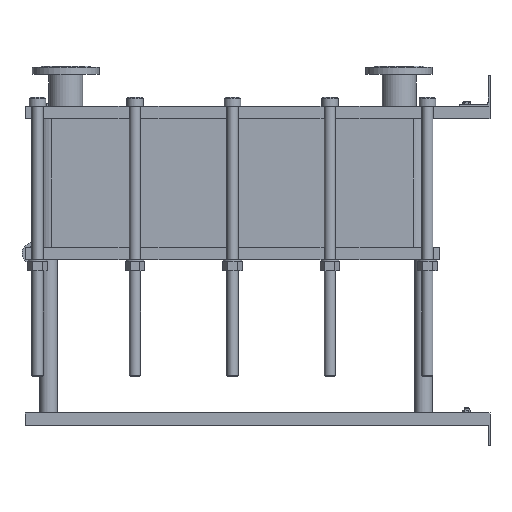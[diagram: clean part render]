
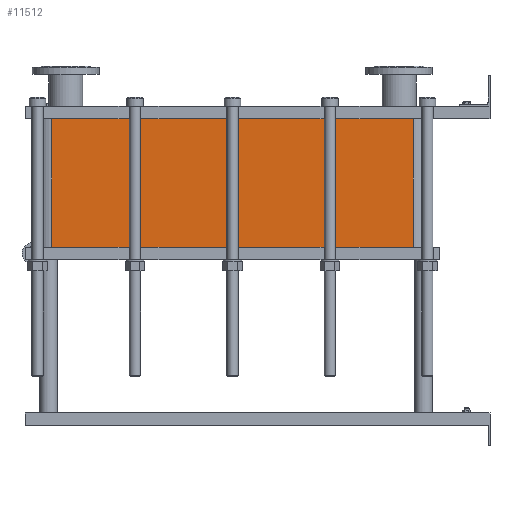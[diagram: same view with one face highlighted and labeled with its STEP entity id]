
A CAD part, left-side view. The second image highlights one B-rep face of the part: STEP entity #11512.
In plain terms, the highlighted planar face has unit normal (-1, 0, 0).
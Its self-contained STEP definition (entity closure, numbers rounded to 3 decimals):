
#1129=LINE('',#23232,#2102);
#1130=LINE('',#23236,#2103);
#1131=LINE('',#23238,#2104);
#1132=LINE('',#23239,#2105);
#2102=VECTOR('',#15887,10.);
#2103=VECTOR('',#15892,10.);
#2104=VECTOR('',#15893,10.);
#2105=VECTOR('',#15894,10.);
#3267=FACE_OUTER_BOUND('',#4093,.T.);
#4093=EDGE_LOOP('',(#10103,#10104,#10105,#10106));
#5642=VERTEX_POINT('',#23229);
#5643=VERTEX_POINT('',#23231);
#5644=VERTEX_POINT('',#23235);
#5645=VERTEX_POINT('',#23237);
#7159=EDGE_CURVE('',#5643,#5642,#1129,.T.);
#7161=EDGE_CURVE('',#5642,#5644,#1130,.T.);
#7162=EDGE_CURVE('',#5645,#5644,#1131,.T.);
#7163=EDGE_CURVE('',#5645,#5643,#1132,.T.);
#10103=ORIENTED_EDGE('',*,*,#7161,.T.);
#10104=ORIENTED_EDGE('',*,*,#7162,.F.);
#10105=ORIENTED_EDGE('',*,*,#7163,.T.);
#10106=ORIENTED_EDGE('',*,*,#7159,.T.);
#10857=PLANE('',#12751);
#11512=ADVANCED_FACE('',(#3267),#10857,.T.);
#12751=AXIS2_PLACEMENT_3D('',#23234,#15890,#15891);
#15887=DIRECTION('',(0.,0.,-1.));
#15890=DIRECTION('center_axis',(-1.,0.,0.));
#15891=DIRECTION('ref_axis',(0.,1.,0.));
#15892=DIRECTION('',(0.,-1.,0.));
#15893=DIRECTION('',(0.,0.,-1.));
#15894=DIRECTION('',(0.,1.,0.));
#23229=CARTESIAN_POINT('',(-200.,1414.,-414.));
#23231=CARTESIAN_POINT('',(-200.,1414.,0.));
#23232=CARTESIAN_POINT('',(-200.,1414.,0.));
#23234=CARTESIAN_POINT('Origin',(-200.,248.,0.));
#23235=CARTESIAN_POINT('',(-200.,248.,-414.));
#23236=CARTESIAN_POINT('',(-200.,539.5,-414.));
#23237=CARTESIAN_POINT('',(-200.,248.,0.));
#23238=CARTESIAN_POINT('',(-200.,248.,0.));
#23239=CARTESIAN_POINT('',(-200.,248.,0.));
